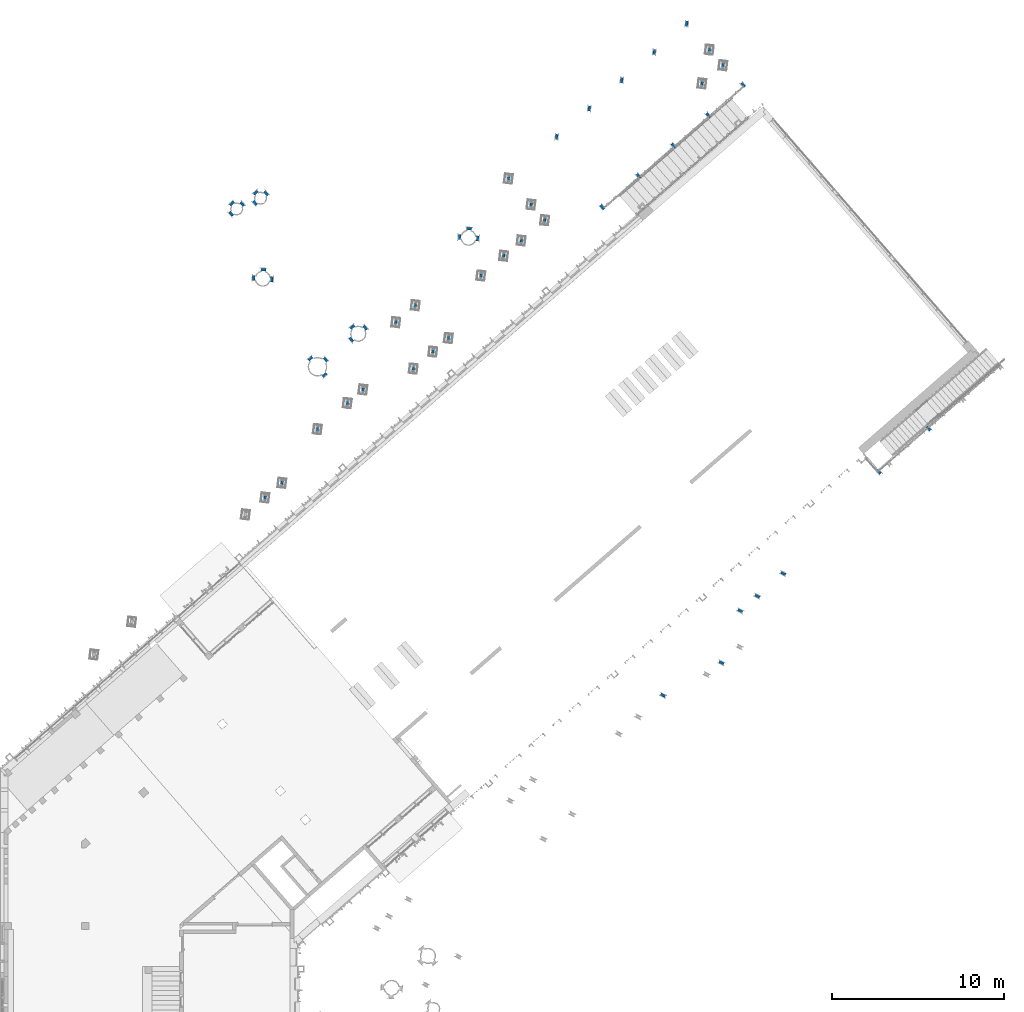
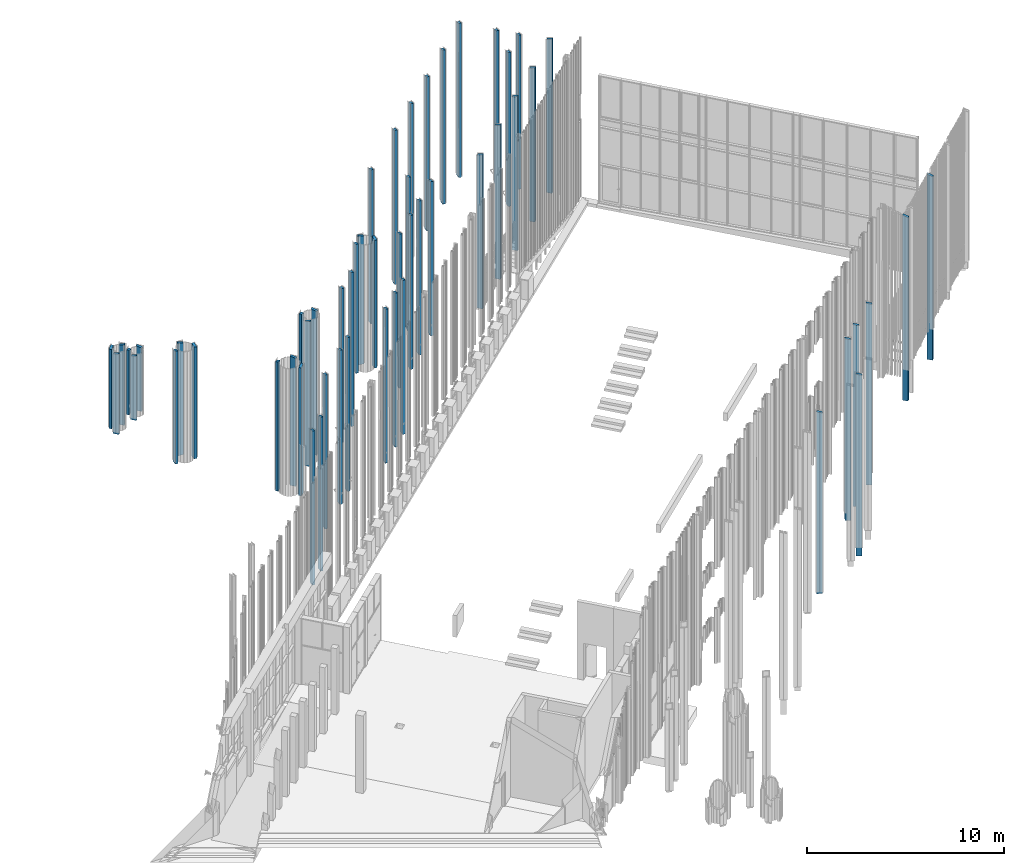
# One storey, part 4 of 390: 54 columns.
"""IFC2X3 building model written with IfcOpenShell, lengths in millimetres."""

from ifc_helpers import new_model, entity, si_unit, converted_unit, derived_unit, money_unit, direction, frame, origin_with_axes, place, context, subcontext, project, spatial, faceted_brep, source, transform, mapped, material, type_object, element, save


model = new_model("IFC2X3")

# Units and contexts
model_context = context("Model", 3, precision=1e-05, world=origin_with_axes(), true_north=direction((0.0, 1.0)))
body_context = subcontext(model_context, "Body", "Model", "MODEL_VIEW")
ifc_project = project(units=[si_unit("LENGTHUNIT", "METRE", prefix="MILLI"), si_unit("AREAUNIT", "SQUARE_METRE"), si_unit("VOLUMEUNIT", "CUBIC_METRE"), converted_unit("PLANEANGLEUNIT", "DEGREE", entity("IfcPlaneAngleMeasure", 0.0174532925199), si_unit("PLANEANGLEUNIT", "RADIAN"), dimensions=[0, 0, 0, 0, 0, 0, 0]), si_unit("SOLIDANGLEUNIT", "STERADIAN"), money_unit("EUR"), converted_unit("TIMEUNIT", "Year", entity("IfcTimeMeasure", 31556926.0), si_unit("TIMEUNIT", "SECOND"), dimensions=[0, 0, 1, 0, 0, 0, 0]), si_unit("MASSUNIT", "GRAM", prefix="KILO"), si_unit("THERMODYNAMICTEMPERATUREUNIT", "DEGREE_CELSIUS"), si_unit("LUMINOUSINTENSITYUNIT", "LUMEN"), si_unit("ENERGYUNIT", "JOULE", prefix="MEGA"), derived_unit("THERMALCONDUCTANCEUNIT", [(si_unit("POWERUNIT", "WATT"), 1), (si_unit("LENGTHUNIT", "METRE"), -1), (si_unit("THERMODYNAMICTEMPERATUREUNIT", "KELVIN"), -1)]), derived_unit("SPECIFICHEATCAPACITYUNIT", [(si_unit("ENERGYUNIT", "JOULE"), 1), (si_unit("MASSUNIT", "GRAM", prefix="KILO"), -1), (si_unit("THERMODYNAMICTEMPERATUREUNIT", "KELVIN"), -1)]), derived_unit("MASSDENSITYUNIT", [(si_unit("MASSUNIT", "GRAM", prefix="KILO"), 1), (si_unit("VOLUMEUNIT", "CUBIC_METRE"), -1)])], contexts=[model_context])

# Site, building, storey
site_placement = place(None, origin_with_axes())
site = spatial("IfcSite", under=ifc_project, at=site_placement, Name="Site", CompositionType="ELEMENT")
building_placement = place(site_placement, origin_with_axes())
building = spatial("IfcBuilding", under=site, at=building_placement, Name="Building", CompositionType="ELEMENT")
storey_placement = place(building_placement, origin_with_axes())
storey = spatial("IfcBuildingStorey", under=building, at=storey_placement, Name="1 korrus", CompositionType="ELEMENT", Elevation=0.0)

# Columns
ifc_material = material(Name="Teras (musta värvi)")
column_type = type_object("IfcColumnType", Name="Päikesevarjestuspost", PredefinedType="NOTDEFINED")
shared_shape_1 = source(origin_with_axes(), body_context, "Body", "Brep", [
    faceted_brep([(162202.026399, 119507.779568, 8995.0), (162202.026399, 119507.779568, 1000.0), (162350.908322, 119489.499166, 1000.0), (162350.908322, 119489.499166, 8995.0), (162238.587202, 119805.543413, 8914.61524227), (162238.587202, 119805.543413, 1000.0), (162387.469125, 119787.263012, 1000.0), (162387.469125, 119787.263012, 8914.61524227)], [[[0, 1, 2, 3]], [[1, 0, 4, 5]], [[1, 5, 6, 2]], [[3, 2, 6, 7]], [[4, 0, 3, 7]], [[5, 4, 7, 6]]]),
])
for number, where, z_axis, x_axis in (
    (1, (-6699.43504186, -20707.0748074, -999.846521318), (0.0, 0.0, 1.0), (0.998629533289, 0.0523359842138, 0.0)),
    (2, (21693.9231341, 263567.889697, -999.846521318), (0.0, 0.0, 1.0), (0.0523359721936, -0.998629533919, 0.0)),
    (3, (305972.834165, 235174.211051, -999.846521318), (0.0, 0.0, 1.0), (-0.998629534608, -0.052335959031, 0.0)),
):
    element("IfcColumn", number, at=place(storey_placement, frame(where, z_axis=z_axis, x_axis=x_axis)), inside=storey, type_object=column_type, material=ifc_material, Name="Teras (musta värvi)", ObjectType="Teras (musta värvi)", context=body_context, shape_type="MappedRepresentation", body=[
        mapped(shared_shape_1, transform((0.0, 0.0, 0.0))),
    ])
shared_shape_2 = source(origin_with_axes(), body_context, "Body", "Brep", [
    faceted_brep([(162202.026399, 119507.779568, 9545.0), (162202.026399, 119507.779568, 0.0), (162350.908322, 119489.499166, 0.0), (162350.908322, 119489.499166, 9545.0), (162238.587202, 119805.543413, 9464.61524227), (162238.587202, 119805.543413, 0.0), (162387.469125, 119787.263012, 0.0), (162387.469125, 119787.263012, 9464.61524227)], [[[0, 1, 2, 3]], [[1, 0, 4, 5]], [[1, 5, 6, 2]], [[3, 2, 6, 7]], [[4, 0, 3, 7]], [[5, 4, 7, 6]]]),
])
for number, where, z_axis, x_axis in (
    (4, (139808.516998, -89845.9580855, 0.0), (0.0, 0.0, 1.0), (0.669130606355, 0.743144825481, 0.0)),
    (5, (145876.382023, -84571.2434919, 0.0), (0.0, 0.0, 1.0), (0.669130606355, 0.743144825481, 0.0)),
    (6, (-16876.3828241, -17320.4417606, 0.0), (0.0, 0.0, 1.0), (1.0, 0.0, 0.0)),
    (7, (-9598.60959974, -12583.985607, 0.0), (0.0, 0.0, 1.0), (1.0, 0.0, 0.0)),
    (8, (-10617.467533, -13469.6652962, 0.0), (0.0, 0.0, 1.0), (1.0, 0.0, 0.0)),
    (9, (-24463.4222397, -27493.2895874, 0.0), (0.0, 0.0, 1.0), (1.0, 0.0, 0.0)),
    (10, (-8240.13235544, -11403.0793547, 0.0), (0.0, 0.0, 1.0), (1.0, 0.0, 0.0)),
    (11, (-18779.9207954, -21227.6841631, 0.0), (0.0, 0.0, 1.0), (1.0, 0.0, 0.0)),
    (12, (-19685.5722916, -22014.954998, 0.0), (0.0, 0.0, 1.0), (1.0, 0.0, 0.0)),
    (13, (-21421.4043259, -23523.8907648, 0.0), (0.0, 0.0, 1.0), (1.0, 0.0, 0.0)),
    (14, (-23482.2997855, -26640.4128496, 0.0), (0.0, 0.0, 1.0), (1.0, 0.0, 0.0)),
    (15, (-13822.0171594, -18242.8572777, 0.0), (0.0, 0.0, 1.0), (1.0, 0.0, 0.0)),
    (16, (-15744.3184538, -16336.353217, 0.0), (0.0, 0.0, 1.0), (1.0, 0.0, 0.0)),
    (17, (-11938.2092983, -14617.768597, 0.0), (0.0, 0.0, 1.0), (1.0, 0.0, 0.0)),
    (18, (-15859.7330258, -20014.2166562, 0.0), (0.0, 0.0, 1.0), (1.0, 0.0, 0.0)),
    (19, (-14727.6686556, -19030.1281126, 0.0), (0.0, 0.0, 1.0), (1.0, 0.0, 0.0)),
    (20, (0.0, 0.0, 0.0), (0.0, 0.0, 1.0), (1.0, 0.0, 0.0)),
    (21, (2099.38889286, -2415.07065664, 0.0), (0.0, 0.0, 1.0), (1.0, 0.0, 0.0)),
    (22, (137717.971461, -91663.241596, 0.0), (0.0, 0.0, 1.0), (0.669130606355, 0.743144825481, 0.0)),
    (23, (143853.760348, -86329.4816898, 0.0), (0.0, 0.0, 1.0), (0.669130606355, 0.743144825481, 0.0)),
    (24, (141831.138673, -88087.7198877, 0.0), (0.0, 0.0, 1.0), (0.669130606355, 0.743144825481, 0.0)),
    (25, (-10339.5212483, -8988.00869803, 0.0), (0.0, 0.0, 1.0), (1.0, 0.0, 0.0)),
    (26, (-9027.40319042, -10497.4278583, 0.0), (0.0, 0.0, 1.0), (1.0, 0.0, 0.0)),
    (27, (1312.11805804, -1509.4191604, 0.0), (0.0, 0.0, 1.0), (1.0, 0.0, 0.0)),
    (28, (884.306468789, -3471.32569341, 0.0), (0.0, 0.0, 1.0), (1.0, 0.0, 0.0)),
    (29, (-1886.77395039, -1640.14757267, 0.0), (0.0, 0.0, 1.0), (1.0, 0.0, 0.0)),
    (30, (-3773.54790084, -3280.29514527, 0.0), (0.0, 0.0, 1.0), (1.0, 0.0, 0.0)),
    (31, (-5660.32185134, -4920.44271781, 0.0), (0.0, 0.0, 1.0), (1.0, 0.0, 0.0)),
    (32, (-7547.09580183, -6560.59029036, 0.0), (0.0, 0.0, 1.0), (1.0, 0.0, 0.0)),
):
    element("IfcColumn", number, at=place(storey_placement, frame(where, z_axis=z_axis, x_axis=x_axis)), inside=storey, type_object=column_type, material=ifc_material, Name="Teras (musta värvi)", ObjectType="Teras (musta värvi)", context=body_context, shape_type="MappedRepresentation", body=[
        mapped(shared_shape_2, transform((0.0, 0.0, 0.0))),
    ])
shared_shape_3 = source(origin_with_axes(), body_context, "Body", "Brep", [
    faceted_brep([(-162387.469125, 119787.263012, -1911.07695154), (-162350.908322, 119489.499166, -1911.07695154), (-162350.908322, 119489.499166, 9545.0), (-162387.469125, 119787.263012, 9464.61524227), (-162238.587202, 119805.543413, -1911.07695154), (-162202.026399, 119507.779568, -1911.07695154), (-162202.026399, 119507.779568, 9545.0), (-162238.587202, 119805.543413, 9464.61524227)], [[[0, 1, 2, 3]], [[1, 0, 4, 5]], [[1, 5, 6, 2]], [[3, 2, 6, 7]], [[0, 3, 7, 4]], [[6, 5, 4, 7]]]),
])
for number, where, z_axis, x_axis in (
    (33, (-28012.7620404, 102093.061785, -103.923048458), (0.0, 0.0, 1.0), (-0.829037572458, -0.559192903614, 0.0)),
    (34, (-25125.9980739, 104602.487778, -103.923048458), (0.0, 0.0, 1.0), (-0.829037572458, -0.559192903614, 0.0)),
):
    element("IfcColumn", number, at=place(storey_placement, frame(where, z_axis=z_axis, x_axis=x_axis)), inside=storey, type_object=column_type, material=ifc_material, Name="Teras (musta värvi)", ObjectType="Teras (musta värvi)", context=body_context, shape_type="MappedRepresentation", body=[
        mapped(shared_shape_3, transform((0.0, 0.0, 0.0))),
    ])
shared_shape_4 = source(origin_with_axes(), body_context, "Body", "Brep", [
    faceted_brep([(162202.026399, 119507.779568, 9005.0), (162202.026399, 119507.779568, 1000.0), (162350.908322, 119489.499166, 1000.0), (162350.908322, 119489.499166, 9005.0), (162238.587202, 119805.543413, 8924.61524227), (162238.587202, 119805.543413, 1000.0), (162387.469125, 119787.263012, 1000.0), (162387.469125, 119787.263012, 8924.61524227)], [[[0, 1, 2, 3]], [[1, 0, 4, 5]], [[1, 5, 6, 2]], [[3, 2, 6, 7]], [[4, 0, 3, 7]], [[5, 4, 7, 6]]]),
])
for number, where, z_axis, x_axis in (
    (35, (161025.09921, 300827.444047, -999.846521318), (0.0, 0.0, 1.0), (-0.669130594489, -0.743144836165, 0.0)),
    (36, (-60205.8955177, 119901.72212, -999.846521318), (0.0, 0.0, 1.0), (0.743144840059, -0.669130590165, 0.0)),
    (37, (341950.819832, 79596.4480354, -999.846521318), (0.0, 0.0, 1.0), (-0.743144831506, 0.669130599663, 0.0)),
):
    element("IfcColumn", number, at=place(storey_placement, frame(where, z_axis=z_axis, x_axis=x_axis)), inside=storey, type_object=column_type, material=ifc_material, Name="Teras (musta värvi)", ObjectType="Teras (musta värvi)", context=body_context, shape_type="MappedRepresentation", body=[
        mapped(shared_shape_4, transform((0.0, 0.0, 0.0))),
    ])
shared_shape_5 = source(origin_with_axes(), body_context, "Body", "Brep", [
    faceted_brep([(162202.026399, 119507.779568, 9545.0), (162202.026399, 119507.779568, -1715.0), (162350.908322, 119489.499166, -1715.0), (162350.908322, 119489.499166, 9545.0), (162238.587202, 119805.543413, 9464.61524227), (162238.587202, 119805.543413, -1715.0), (162387.469125, 119787.263012, -1715.0), (162387.469125, 119787.263012, 9464.61524227)], [[[0, 1, 2, 3]], [[1, 0, 4, 5]], [[1, 5, 6, 2]], [[3, 2, 6, 7]], [[4, 0, 3, 7]], [[5, 4, 7, 6]]]),
])
for number, where, z_axis, x_axis in (
    (38, (109457.59222, 279871.858177, 0.0), (0.0, 0.0, 1.0), (-0.342020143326, -0.939692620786, 0.0)),
    (39, (107386.078924, 276005.423972, 0.0), (0.0, 0.0, 1.0), (-0.342020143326, -0.939692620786, 0.0)),
    (40, (103993.335296, 274116.167326, 0.0), (0.0, 0.0, 1.0), (-0.342020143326, -0.939692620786, 0.0)),
    (41, (110967.01138, 281183.976235, 0.0), (0.0, 0.0, 1.0), (-0.342020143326, -0.939692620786, 0.0)),
    (42, (108476.469766, 279018.981439, 0.0), (0.0, 0.0, 1.0), (-0.342020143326, -0.939692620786, 0.0)),
):
    element("IfcColumn", number, at=place(storey_placement, frame(where, z_axis=z_axis, x_axis=x_axis)), inside=storey, type_object=column_type, material=ifc_material, Name="Teras (musta värvi)", ObjectType="Teras (musta värvi)", context=body_context, shape_type="MappedRepresentation", body=[
        mapped(shared_shape_5, transform((0.0, 0.0, 0.0))),
    ])
shared_shape_6 = source(origin_with_axes(), body_context, "Body", "Brep", [
    faceted_brep([(162202.026399, 119507.779568, 5995.0), (162202.026399, 119507.779568, 1000.0), (162350.908322, 119489.499166, 1000.0), (162350.908322, 119489.499166, 5995.0), (162238.587202, 119805.543413, 5914.61524227), (162238.587202, 119805.543413, 1000.0), (162387.469125, 119787.263012, 1000.0), (162387.469125, 119787.263012, 5914.61524227)], [[[0, 1, 2, 3]], [[1, 0, 4, 5]], [[1, 5, 6, 2]], [[3, 2, 6, 7]], [[4, 0, 3, 7]], [[5, 4, 7, 6]]]),
])
for number, where, z_axis, x_axis in (
    (43, (116185.72291, -92043.8680732, -999.846521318), (0.0, 0.0, 1.0), (0.669130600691, 0.743144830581, 0.0)),
    (44, (116827.223195, -91486.217618, -999.846521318), (0.0, 0.0, 1.0), (0.669130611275, 0.743144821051, 0.0)),
    (45, (336576.91499, 89543.0826013, -999.846521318), (0.0, 0.0, 1.0), (-0.743144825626, 0.669130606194, 0.0)),
):
    element("IfcColumn", number, at=place(storey_placement, frame(where, z_axis=z_axis, x_axis=x_axis)), inside=storey, type_object=column_type, material=ifc_material, Name="Teras (musta värvi)", ObjectType="Teras (musta värvi)", context=body_context, shape_type="MappedRepresentation", body=[
        mapped(shared_shape_6, transform((0.0, 0.0, 0.0))),
    ])
shared_shape_7 = source(origin_with_axes(), body_context, "Body", "Brep", [
    faceted_brep([(162202.026399, 119507.779568, 7995.0), (162202.026399, 119507.779568, 1000.0), (162350.908322, 119489.499166, 1000.0), (162350.908322, 119489.499166, 7995.0), (162238.587202, 119805.543413, 7914.61524227), (162238.587202, 119805.543413, 1000.0), (162387.469125, 119787.263012, 1000.0), (162387.469125, 119787.263012, 7914.61524227)], [[[0, 1, 2, 3]], [[1, 0, 4, 5]], [[1, 5, 6, 2]], [[3, 2, 6, 7]], [[4, 0, 3, 7]], [[5, 4, 7, 6]]]),
])
for number, where, z_axis, x_axis in (
    (46, (-18637.2896578, -23081.6019283, -999.846521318), (0.0, 0.0, 1.0), (0.998629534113, 0.0523359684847, 0.0)),
    (47, (294034.983579, 232799.679005, -999.846521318), (0.0, 0.0, 1.0), (-0.998629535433, -0.0523359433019, 0.0)),
    (48, (9756.07299567, 261193.362129, -999.846521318), (0.0, 0.0, 1.0), (0.0523359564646, -0.998629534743, 0.0)),
):
    element("IfcColumn", number, at=place(storey_placement, frame(where, z_axis=z_axis, x_axis=x_axis)), inside=storey, type_object=column_type, material=ifc_material, Name="Teras (musta värvi)", ObjectType="Teras (musta värvi)", context=body_context, shape_type="MappedRepresentation", body=[
        mapped(shared_shape_7, transform((0.0, 0.0, 0.0))),
    ])
shared_shape_8 = source(origin_with_axes(), body_context, "Body", "Brep", [
    faceted_brep([(162202.026399, 119507.779568, 5005.0), (162202.026399, 119507.779568, 1000.0), (162350.908322, 119489.499166, 1000.0), (162350.908322, 119489.499166, 5005.0), (162238.587202, 119805.543413, 4924.61524227), (162238.587202, 119805.543413, 1000.0), (162387.469125, 119787.263012, 1000.0), (162387.469125, 119787.263012, 4924.61524227)], [[[0, 1, 2, 3]], [[1, 0, 4, 5]], [[1, 5, 6, 2]], [[3, 2, 6, 7]], [[4, 0, 3, 7]], [[5, 4, 7, 6]]]),
])
for number, where, z_axis, x_axis in (
    (49, (117569.804302, -91418.7894923, -999.846521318), (0.0, 0.0, 1.0), (0.669130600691, 0.743144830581, 0.0)),
    (50, (-63375.6445698, 129530.054395, -999.846521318), (0.0, 0.0, 1.0), (0.743144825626, -0.669130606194, 0.0)),
    (51, (157573.200544, 310475.501646, -999.846521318), (0.0, 0.0, 1.0), (-0.669130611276, -0.74314482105, 0.0)),
):
    element("IfcColumn", number, at=place(storey_placement, frame(where, z_axis=z_axis, x_axis=x_axis)), inside=storey, type_object=column_type, material=ifc_material, Name="Teras (musta värvi)", ObjectType="Teras (musta värvi)", context=body_context, shape_type="MappedRepresentation", body=[
        mapped(shared_shape_8, transform((0.0, 0.0, 0.0))),
    ])
shared_shape_9 = source(origin_with_axes(), body_context, "Body", "Brep", [
    faceted_brep([(162202.026399, 119507.779568, 9995.0), (162202.026399, 119507.779568, 1000.0), (162350.908322, 119489.499166, 1000.0), (162350.908322, 119489.499166, 9995.0), (162238.587202, 119805.543413, 9914.61524227), (162238.587202, 119805.543413, 1000.0), (162387.469125, 119787.263012, 1000.0), (162387.469125, 119787.263012, 9914.61524227)], [[[0, 1, 2, 3]], [[1, 0, 4, 5]], [[1, 5, 6, 2]], [[3, 2, 6, 7]], [[4, 0, 3, 7]], [[5, 4, 7, 6]]]),
])
for number, where, z_axis, x_axis in (
    (52, (-57774.2133907, 121739.96115, -999.846521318), (0.0, 0.0, 1.0), (0.743144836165, -0.669130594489, 0.0)),
    (53, (123161.405625, -99349.9300795, -999.846521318), (0.0, 0.0, 1.0), (0.669130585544, 0.743144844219, 0.0)),
    (54, (163318.695061, 302678.144174, -999.846521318), (0.0, 0.0, 1.0), (-0.669130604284, -0.743144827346, 0.0)),
):
    element("IfcColumn", number, at=place(storey_placement, frame(where, z_axis=z_axis, x_axis=x_axis)), inside=storey, type_object=column_type, material=ifc_material, Name="Teras (musta värvi)", ObjectType="Teras (musta värvi)", context=body_context, shape_type="MappedRepresentation", body=[
        mapped(shared_shape_9, transform((0.0, 0.0, 0.0))),
    ])

save(model, "model.ifc")
